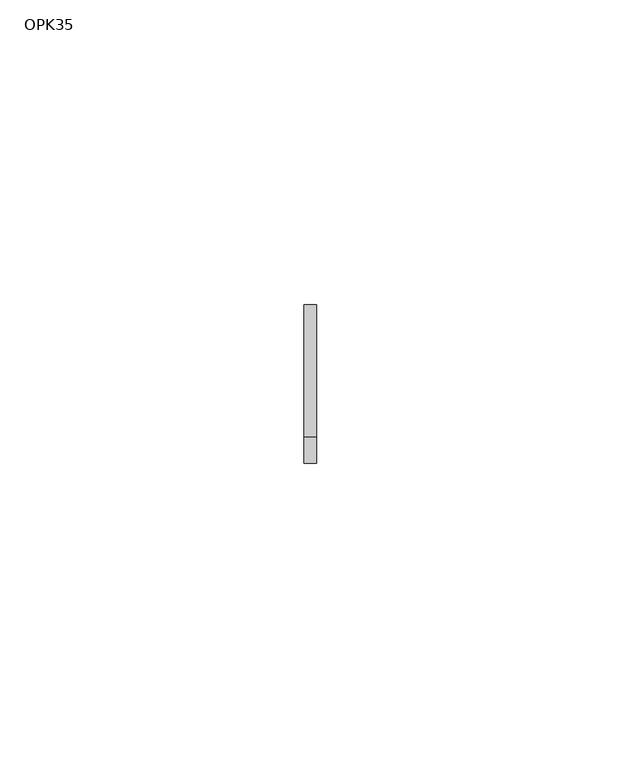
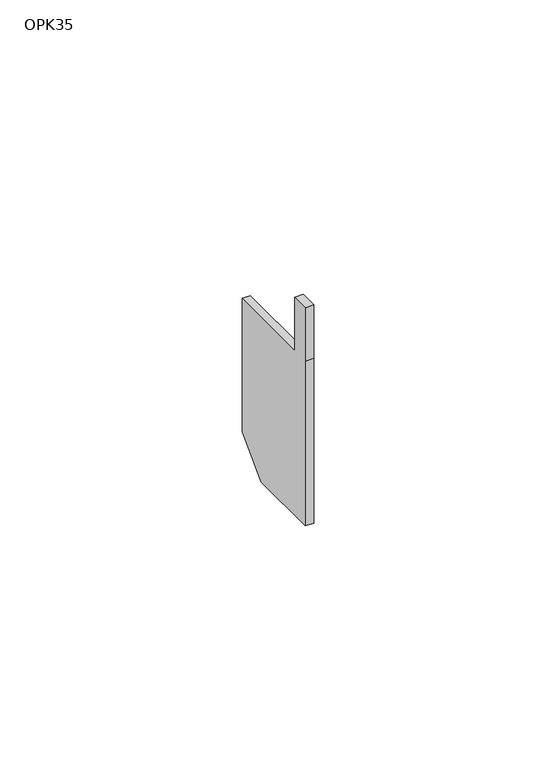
"""IFC4 building model written with IfcOpenShell, lengths in millimetres: proxy geometry, Odbojnik - OPK35 : OPK35."""

from ifc_helpers import new_model, si_unit, frame, origin, place, context, project, spatial, polyline, outline, extrude, source, transform, mapped, element, save


def opk35_b9e4c53d(model_context):
    return source(origin(), model_context, "Body", "SweptSolid", [
        extrude(outline(polyline([(-4.519086, 4.4983909), (17.2809141, 4.4983909), (17.2809141, -29.055164), (9.2809171, -37.055161), (-8.8190858, -37.055161), (-8.8190858, 4.4983909), (-8.8190858, 18.0409732), (-4.519086, 18.0409732), (-4.519086, 4.4983909)])), frame((-3.0, 0.0, 0.0), z_axis=(1.0, 0.0, 0.0), x_axis=(0.0, 1.0, 0.0)), (0.0, 0.0, 1.0), 2.0),
    ])


if __name__ == "__main__":
    model = new_model("IFC4")
    model_context = context("Model", 3, world=origin())
    ifc_project = project(units=[si_unit("LENGTHUNIT", "METRE", prefix="MILLI")], contexts=[model_context])
    site = spatial("IfcSite", under=ifc_project)
    building = spatial("IfcBuilding", under=site)
    placement = place(None, origin())
    opk35_shape = opk35_b9e4c53d(model_context)
    element("IfcBuildingElementProxy", 1, Name="Odbojnik - OPK35 : OPK35", ObjectType="Odbojnik - OPK35 : OPK35", at=placement, inside=building, context=model_context, shape_type="MappedRepresentation", body=[
        mapped(opk35_shape, transform((0.0, 0.0, 0.0), x_axis=(1.0, 0.0, 0.0), y_axis=(0.0, 1.0, 0.0), z_axis=(0.0, 0.0, 1.0))),
    ])
    save(model, "model.ifc")
